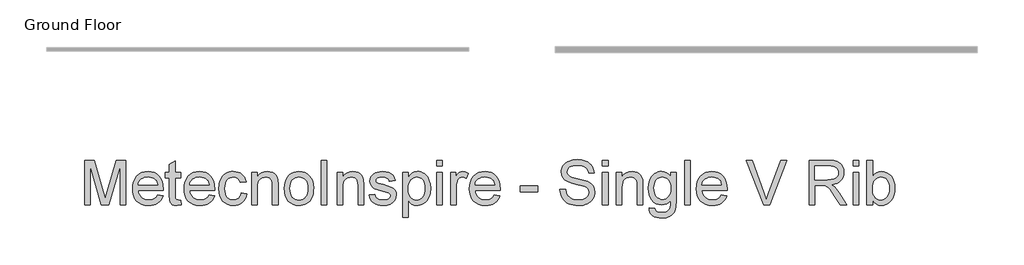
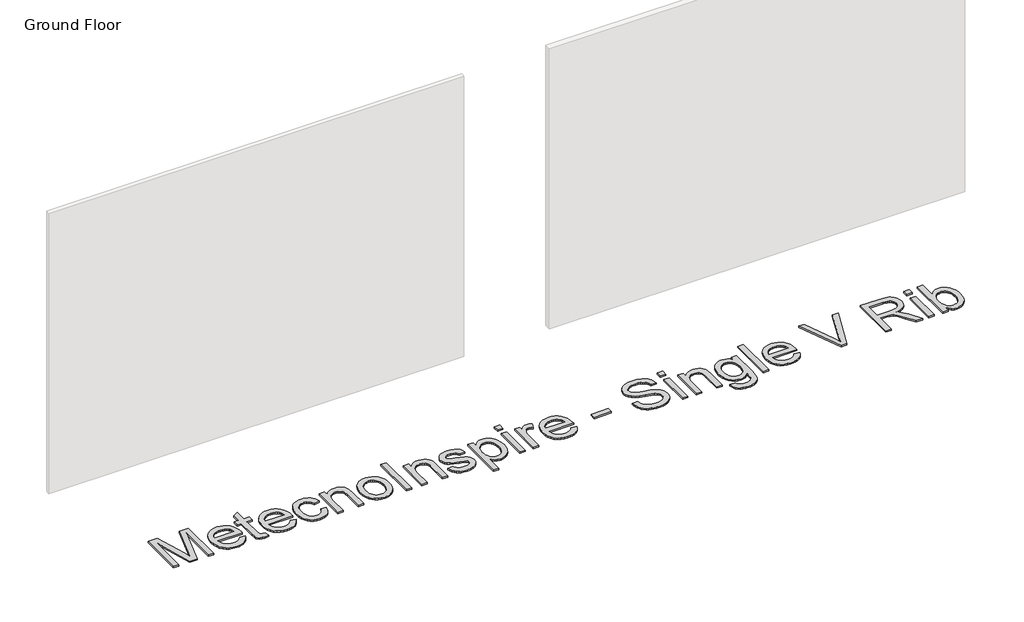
# One storey, part 2 of 5: 1 proxy.
"""IFC4 building model written with IfcOpenShell, lengths in millimetres."""

from ifc_helpers import new_model, si_unit, origin, origin_with_axes, place, context, project, spatial, polyline, outline, extrude, element, save

model = new_model("IFC4")

# Units and contexts
model_context = context("Model", 3, world=origin())
ifc_project = project(units=[si_unit("LENGTHUNIT", "METRE", prefix="MILLI")], contexts=[model_context])

# Site, building, storey
site = spatial("IfcSite", under=ifc_project)
building = spatial("IfcBuilding", under=site)
storey = spatial("IfcBuildingStorey", under=building, Name="Ground Floor", Elevation=0.0)

# Proxy
placement = place(None, origin())
element("IfcBuildingElementProxy", 1, Name="600mm Arial", ObjectType="600mm Arial", at=placement, inside=storey, context=model_context, shape_type="SweptSolid", body=[
    extrude(outline(polyline([(-5461.1753706, -1164.7468486), (-5461.1753706, -573.9776179), (-5334.108063, -573.9776179), (-5213.2426783, -990.3718486), (-5188.8676783, -1077.3430025), (-5162.4734476, -983.1603102), (-5043.6272937, -573.9776179), (-4916.559986, -573.9776179), (-4916.559986, -1164.7468486), (-4990.4061399, -1164.7468486), (-4990.4061399, -647.8237717), (-5138.8196014, -1164.7468486), (-5238.9157553, -1164.7468486), (-5387.3292168, -647.8237717), (-5387.3292168, -1164.7468486), (-5461.1753706, -1164.7468486)])), origin_with_axes(), (0.0, 0.0, 1.0), 20.0),
    extrude(outline(polyline([(-4492.809986, -1035.5160794), (-4420.4061399, -1044.7468486), (-4431.5074019, -1073.7462477), (-4446.4938803, -1099.3021371), (-4465.365575, -1121.4145169), (-4488.122486, -1140.0833871), (-4514.5302384, -1154.9121131), (-4544.3544572, -1165.5040602), (-4577.5951423, -1171.8592285), (-4614.2522937, -1173.9776179), (-4660.0726062, -1170.3222693), (-4700.8989283, -1159.3562236), (-4736.7312601, -1141.0794809), (-4767.5696014, -1115.492041), (-4792.3682793, -1083.3060434), (-4810.0816206, -1045.2336275), (-4820.7096255, -1001.2747934), (-4824.2522937, -951.429541), (-4820.6735678, -899.8940842), (-4809.9373899, -854.4704063), (-4792.0437601, -815.1585073), (-4766.9926783, -781.9583871), (-4736.2354668, -755.5821852), (-4701.2234476, -736.742041), (-4661.9566206, -725.4379544), (-4618.434986, -721.6699256), (-4576.3150942, -725.42894), (-4538.2246495, -736.7059833), (-4504.1636519, -755.5010554), (-4474.1321014, -781.8141563), (-4449.6173779, -814.9421611), (-4432.106861, -854.1819448), (-4421.6005509, -899.5335073), (-4418.0984476, -950.9968486), (-4418.5311399, -970.9006948), (-4750.4061399, -970.9006948), (-4746.1287961, -1000.3688438), (-4737.623688, -1026.1771371), (-4724.8908154, -1048.3255746), (-4707.9301783, -1066.8141563), (-4687.6792769, -1081.3904785), (-4665.075611, -1091.8021371), (-4640.1191807, -1098.0491323), (-4612.809986, -1100.131464), (-4573.5071014, -1096.273291), (-4540.4061399, -1084.6987717), (-4513.5071014, -1064.6867525), (-4492.809986, -1035.5160794)]), holes=[polyline([(-4750.4061399, -897.054541), (-4491.9446014, -897.054541), (-4501.9325822, -858.0401179), (-4510.5233274, -842.6975698), (-4521.5119091, -830.131464), (-4541.6501303, -814.9872333), (-4564.5647937, -804.1699256), (-4590.2558995, -797.679541), (-4618.7234476, -795.5160794), (-4644.6894932, -797.2423414), (-4668.5010918, -802.4211275), (-4690.1582432, -811.0524376), (-4709.6609476, -823.1362717), (-4726.0266327, -838.1137357), (-4738.2727264, -855.4259352), (-4746.3992288, -875.0728703), (-4750.4061399, -897.054541)])]), origin_with_axes(), (0.0, 0.0, 1.0), 20.0),
    extrude(outline(polyline([(-4187.3292168, -1103.1603102), (-4178.0984476, -1166.9103102), (-4233.3388322, -1173.9776179), (-4268.7835437, -1170.912714), (-4295.2138322, -1161.7180025), (-4313.8917168, -1147.5473294), (-4326.0792168, -1129.554541), (-4332.7859476, -1098.6530986), (-4335.0215245, -1045.756464), (-4335.0215245, -804.7468486), (-4390.4061399, -804.7468486), (-4390.4061399, -730.9006948), (-4335.0215245, -730.9006948), (-4335.0215245, -625.4680025), (-4261.1753706, -582.054541), (-4261.1753706, -730.9006948), (-4187.3292168, -730.9006948), (-4187.3292168, -804.7468486), (-4261.1753706, -804.7468486), (-4261.1753706, -1043.5930025), (-4257.2811399, -1081.6699256), (-4244.6609476, -1095.1555025), (-4234.0058995, -1098.8874736), (-4219.4926783, -1100.131464), (-4187.3292168, -1103.1603102)])), origin_with_axes(), (0.0, 0.0, 1.0), 20.0),
    extrude(outline(polyline([(-3809.733063, -1035.5160794), (-3737.3292168, -1044.7468486), (-3748.4304788, -1073.7462477), (-3763.4169572, -1099.3021371), (-3782.2886519, -1121.4145169), (-3805.045563, -1140.0833871), (-3831.4533154, -1154.9121131), (-3861.2775341, -1165.5040602), (-3894.5182192, -1171.8592285), (-3931.1753706, -1173.9776179), (-3976.9956831, -1170.3222693), (-4017.8220053, -1159.3562236), (-4053.654337, -1141.0794809), (-4084.4926783, -1115.492041), (-4109.2913562, -1083.3060434), (-4127.0046976, -1045.2336275), (-4137.6327024, -1001.2747934), (-4141.1753706, -951.429541), (-4137.5966447, -899.8940842), (-4126.8604668, -854.4704063), (-4108.966837, -815.1585073), (-4083.9157553, -781.9583871), (-4053.1585437, -755.5821852), (-4018.1465245, -736.742041), (-3978.8796976, -725.4379544), (-3935.358063, -721.6699256), (-3893.2381711, -725.42894), (-3855.1477264, -736.7059833), (-3821.0867288, -755.5010554), (-3791.0551783, -781.8141563), (-3766.5404548, -814.9421611), (-3749.029938, -854.1819448), (-3738.5236279, -899.5335073), (-3735.0215245, -950.9968486), (-3735.4542168, -970.9006948), (-4067.3292168, -970.9006948), (-4063.051873, -1000.3688438), (-4054.5467649, -1026.1771371), (-4041.8138923, -1048.3255746), (-4024.8532553, -1066.8141563), (-4004.6023538, -1081.3904785), (-3981.998688, -1091.8021371), (-3957.0422577, -1098.0491323), (-3929.733063, -1100.131464), (-3890.4301783, -1096.273291), (-3857.3292168, -1084.6987717), (-3830.4301783, -1064.6867525), (-3809.733063, -1035.5160794)]), holes=[polyline([(-4067.3292168, -897.054541), (-3808.8676783, -897.054541), (-3818.8556591, -858.0401179), (-3827.4464043, -842.6975698), (-3838.434986, -830.131464), (-3858.5732072, -814.9872333), (-3881.4878706, -804.1699256), (-3907.1789764, -797.679541), (-3935.6465245, -795.5160794), (-3961.6125702, -797.2423414), (-3985.4241687, -802.4211275), (-4007.0813202, -811.0524376), (-4026.5840245, -823.1362717), (-4042.9497096, -838.1137357), (-4055.1958033, -855.4259352), (-4063.3223057, -875.0728703), (-4067.3292168, -897.054541)])]), origin_with_axes(), (0.0, 0.0, 1.0), 20.0),
    extrude(outline(polyline([(-3384.2522937, -1007.8237717), (-3310.4061399, -1017.054541), (-3318.4379908, -1051.8997934), (-3330.9950822, -1082.7336275), (-3348.0774139, -1109.5560434), (-3369.684986, -1132.367041), (-3394.9073418, -1150.5716684), (-3422.8340245, -1163.5749736), (-3453.4650341, -1171.3769568), (-3486.8003706, -1173.9776179), (-3528.2171375, -1170.3493126), (-3565.3520533, -1159.4643967), (-3598.2051182, -1141.3228703), (-3626.7763322, -1115.9247333), (-3649.9028346, -1083.7477501), (-3666.4217649, -1045.2696852), (-3676.333123, -1000.4905385), (-3679.6369091, -949.4103102), (-3673.9938803, -883.695166), (-3666.9400942, -854.123351), (-3657.0647937, -826.742041), (-3644.3003706, -802.1011155), (-3628.5792168, -780.7504544), (-3609.9013322, -762.6900578), (-3588.2667168, -747.9199256), (-3564.6534355, -736.4355506), (-3540.0395533, -728.2324256), (-3514.4250702, -723.3105506), (-3487.809986, -721.6699256), (-3455.0470654, -723.9235313), (-3425.4121495, -730.6843486), (-3398.9052384, -741.9523775), (-3375.5263322, -757.7276179), (-3355.6720654, -777.6494929), (-3339.7390726, -801.3574256), (-3327.7273538, -828.851416), (-3319.6369091, -860.131464), (-3393.483063, -869.3622333), (-3406.8784956, -837.1446852), (-3427.7378706, -814.0497333), (-3454.9073418, -800.1494929), (-3487.233063, -795.5160794), (-3512.3247096, -797.7967285), (-3534.9554187, -804.6386756), (-3555.1251904, -816.0419208), (-3572.8340245, -832.006464), (-3587.2525942, -852.9018967), (-3597.5515726, -879.0978102), (-3603.7309596, -910.5942044), (-3605.7907553, -947.3910794), (-3603.7760317, -984.7423414), (-3597.731861, -1016.6038198), (-3587.6582432, -1042.9755145), (-3573.5551783, -1063.8574256), (-3556.1979067, -1079.7273174), (-3536.3616687, -1091.0629544), (-3514.0464644, -1097.8643366), (-3489.2522937, -1100.131464), (-3451.013111, -1094.4704063), (-3434.4761519, -1087.3940842), (-3419.6609476, -1077.4872333), (-3406.9821615, -1064.6416804), (-3396.8544572, -1048.7492525), (-3389.2778346, -1029.8099496), (-3384.2522937, -1007.8237717)])), origin_with_axes(), (0.0, 0.0, 1.0), 20.0),
    extrude(outline(polyline([(-3245.7907553, -1164.7468486), (-3245.7907553, -730.9006948), (-3171.9446014, -730.9006948), (-3171.9446014, -791.4776179), (-3146.2895533, -760.9367525), (-3115.4782553, -739.1218486), (-3079.5107072, -726.0329063), (-3038.3869091, -721.6699256), (-3001.9866687, -725.1855506), (-2968.6513322, -735.7324256), (-2940.8508514, -751.9944448), (-2921.0551783, -772.6555025), (-2907.623688, -797.6615121), (-2898.9157553, -826.9583871), (-2895.0215245, -898.3526179), (-2895.0215245, -1164.7468486), (-2968.8676783, -1164.7468486), (-2968.8676783, -908.304541), (-2970.9950822, -870.1194448), (-2977.3772937, -842.9680025), (-2989.1501303, -823.5148775), (-3007.4494091, -808.4247333), (-3030.904938, -798.7432429), (-3058.1465245, -795.5160794), (-3080.5699019, -797.3279785), (-3101.3977264, -802.7636756), (-3120.629998, -811.8231708), (-3138.2667168, -824.506464), (-3153.0007913, -842.2558631), (-3163.5251303, -866.5136756), (-3169.8397336, -897.2799015), (-3171.9446014, -934.554541), (-3171.9446014, -1164.7468486), (-3245.7907553, -1164.7468486)])), origin_with_axes(), (0.0, 0.0, 1.0), 20.0),
    extrude(outline(polyline([(-2811.9446014, -947.8237717), (-2807.951212, -891.6368727), (-2795.9710437, -843.2204063), (-2776.0040966, -802.5743727), (-2748.0503706, -769.6987717), (-2719.9073418, -748.6861515), (-2688.8436399, -733.6771371), (-2654.8592649, -724.6717285), (-2617.9542168, -721.6699256), (-2577.2135317, -725.3252741), (-2540.3760918, -736.2913198), (-2507.4418971, -754.5680626), (-2478.4109476, -780.1555025), (-2454.7165365, -812.1882549), (-2437.7919572, -849.8009352), (-2427.6372096, -892.9935434), (-2424.2522937, -941.7660794), (-2425.748688, -981.2943246), (-2430.2378706, -1016.3694448), (-2437.7198418, -1046.99144), (-2448.1946014, -1073.1603102), (-2461.5314404, -1095.763976), (-2477.5996495, -1115.6903583), (-2496.3992288, -1132.9394568), (-2517.9301783, -1147.5112717), (-2541.3541567, -1159.0902982), (-2565.8328226, -1167.3610313), (-2591.3661759, -1172.3234712), (-2617.9542168, -1173.9776179), (-2659.2898538, -1170.335791), (-2696.4698418, -1159.4103102), (-2729.4941807, -1141.2011756), (-2758.3628706, -1115.7083871), (-2781.8048779, -1083.3646371), (-2798.5491687, -1044.6026179), (-2808.5957432, -999.4223294), (-2811.9446014, -947.8237717)]), holes=[polyline([(-2738.0984476, -947.679541), (-2735.9620293, -983.498351), (-2729.5527745, -1014.5124736), (-2718.8706831, -1040.7219087), (-2703.9157553, -1062.1266563), (-2685.7246495, -1078.7537597), (-2665.3340245, -1090.6302621), (-2642.7438803, -1097.7561635), (-2617.9542168, -1100.131464), (-2593.2907553, -1097.7426419), (-2570.7907553, -1090.5761756), (-2550.4542168, -1078.632065), (-2532.2811399, -1061.9103102), (-2517.326212, -1040.2937236), (-2506.6441206, -1013.6651179), (-2500.2348658, -982.0244929), (-2498.0984476, -945.3718486), (-2500.2483875, -910.6888559), (-2506.6982072, -880.4860313), (-2517.4479067, -854.7633751), (-2532.497486, -833.5208871), (-2550.7381711, -816.8937837), (-2571.061188, -805.0172813), (-2593.4665365, -797.8913799), (-2617.9542168, -795.5160794), (-2642.7438803, -797.8823655), (-2665.3340245, -804.9812236), (-2685.7246495, -816.8126539), (-2703.9157553, -833.3766563), (-2718.8706831, -854.718303), (-2729.5527745, -880.882666), (-2735.9620293, -911.8697453), (-2738.0984476, -947.679541)])]), origin_with_axes(), (0.0, 0.0, 1.0), 20.0),
    extrude(outline(polyline([(-2322.7138322, -1164.7468486), (-2322.7138322, -573.9776179), (-2248.8676783, -573.9776179), (-2248.8676783, -1164.7468486), (-2322.7138322, -1164.7468486)])), origin_with_axes(), (0.0, 0.0, 1.0), 20.0),
    extrude(outline(polyline([(-2110.4061399, -1164.7468486), (-2110.4061399, -730.9006948), (-2036.559986, -730.9006948), (-2036.559986, -791.4776179), (-2010.904938, -760.9367525), (-1980.0936399, -739.1218486), (-1944.1260918, -726.0329063), (-1903.0022937, -721.6699256), (-1866.6020533, -725.1855506), (-1833.2667168, -735.7324256), (-1805.466236, -751.9944448), (-1785.670563, -772.6555025), (-1772.2390726, -797.6615121), (-1763.5311399, -826.9583871), (-1759.6369091, -898.3526179), (-1759.6369091, -1164.7468486), (-1833.483063, -1164.7468486), (-1833.483063, -908.304541), (-1835.6104668, -870.1194448), (-1841.9926783, -842.9680025), (-1853.7655149, -823.5148775), (-1872.0647937, -808.4247333), (-1895.5203226, -798.7432429), (-1922.7619091, -795.5160794), (-1945.1852865, -797.3279785), (-1966.013111, -802.7636756), (-1985.2453827, -811.8231708), (-2002.8821014, -824.506464), (-2017.6161759, -842.2558631), (-2028.1405149, -866.5136756), (-2034.4551182, -897.2799015), (-2036.559986, -934.554541), (-2036.559986, -1164.7468486), (-2110.4061399, -1164.7468486)])), origin_with_axes(), (0.0, 0.0, 1.0), 20.0),
    extrude(outline(polyline([(-1685.7907553, -1035.5160794), (-1611.9446014, -1026.2853102), (-1607.482462, -1043.1242525), (-1600.2979668, -1057.8718486), (-1590.3911158, -1070.5280986), (-1577.7619091, -1081.0930025), (-1562.3742889, -1089.4223294), (-1544.1921976, -1095.3718486), (-1499.4446014, -1100.131464), (-1455.2378706, -1095.7684833), (-1438.0563803, -1090.3147573), (-1424.1561399, -1082.679541), (-1405.7667168, -1063.7131948), (-1399.6369091, -1041.7180025), (-1401.1783755, -1031.7480506), (-1405.8027745, -1022.8958871), (-1424.3003706, -1008.5449256), (-1451.9566206, -999.1699256), (-1500.309986, -987.4872333), (-1567.701813, -967.9980506), (-1611.5119091, -951.3574256), (-1639.654938, -933.2023775), (-1660.045563, -909.1699256), (-1672.4313803, -880.7925217), (-1676.559986, -849.6026179), (-1673.2426783, -820.990839), (-1663.2907553, -794.5785794), (-1647.6056591, -771.4115121), (-1627.0888322, -752.5353102), (-1606.6982072, -740.6543006), (-1580.1417168, -730.6843486), (-1549.4385918, -723.9235313), (-1516.608063, -721.6699256), (-1468.5431591, -725.2937236), (-1426.7522937, -736.1651179), (-1393.1465245, -753.2204063), (-1369.6369091, -775.3958871), (-1354.059986, -804.3321852), (-1344.2522937, -841.6699256), (-1418.0984476, -850.9006948), (-1427.419361, -827.6615121), (-1445.8628706, -810.1555025), (-1473.6092649, -799.1759352), (-1510.8388322, -795.5160794), (-1553.2426783, -799.0136756), (-1581.5119091, -809.506464), (-1597.4133514, -824.6506948), (-1602.7138322, -842.1026179), (-1600.514313, -853.460791), (-1593.9157553, -863.5930025), (-1582.6296976, -872.6434833), (-1566.3676783, -879.8910794), (-1502.7619091, -895.6122333), (-1394.372486, -930.3718486), (-1365.7426783, -946.9944448), (-1344.0359476, -969.7468486), (-1330.3520533, -998.7011756), (-1325.7907553, -1033.929541), (-1331.1453226, -1070.3478102), (-1347.2090245, -1104.6026179), (-1373.3688803, -1134.007666), (-1409.0119091, -1155.8766563), (-1452.0647937, -1169.4523775), (-1500.4542168, -1173.9776179), (-1540.1988081, -1171.7961275), (-1574.9133514, -1165.2516563), (-1604.5978466, -1154.3442044), (-1629.2522937, -1139.0737717), (-1649.3905149, -1119.5124736), (-1665.5263322, -1095.7324256), (-1677.6597456, -1067.7336275), (-1685.7907553, -1035.5160794)])), origin_with_axes(), (0.0, 0.0, 1.0), 20.0),
    extrude(outline(polyline([(-1242.7138322, -1330.9006948), (-1242.7138322, -730.9006948), (-1168.8676783, -730.9006948), (-1168.8676783, -803.304541), (-1144.7811399, -767.5893967), (-1117.809986, -742.0785794), (-1086.3676783, -726.772089), (-1048.8676783, -721.6699256), (-1023.1134716, -723.4547813), (-998.9277745, -728.8093486), (-976.310587, -737.7336275), (-955.2619091, -750.2276179), (-936.2414764, -765.9668006), (-919.7090245, -784.6266563), (-905.6645533, -806.2071852), (-894.108063, -830.7083871), (-878.639313, -885.1194448), (-873.483063, -944.506464), (-879.3063803, -1007.6615121), (-886.5855269, -1036.7375337), (-896.7763322, -1064.1458871), (-909.7390726, -1089.1699256), (-925.3340245, -1111.0930025), (-943.561188, -1129.9151179), (-964.420563, -1145.6362717), (-986.8890125, -1158.0356107), (-1009.9433995, -1166.8922813), (-1033.583724, -1172.2062837), (-1057.809986, -1173.9776179), (-1091.7583033, -1169.2360313), (-1122.0647937, -1155.0112717), (-1148.0083033, -1133.538916), (-1168.8676783, -1107.054541), (-1168.8676783, -1330.9006948), (-1242.7138322, -1330.9006948)]), holes=[polyline([(-1168.8676783, -951.2853102), (-1166.8709836, -986.8742525), (-1160.8808995, -1017.4872333), (-1150.8974259, -1043.1242525), (-1136.920563, -1063.7853102), (-1120.0951423, -1079.6867525), (-1101.5659956, -1091.0449256), (-1081.333123, -1097.8598294), (-1059.3965245, -1100.131464), (-1037.1444211, -1097.7786996), (-1016.5419572, -1090.7204063), (-997.5891327, -1078.9565842), (-980.2859476, -1062.4872333), (-965.8673779, -1041.0779785), (-955.5683995, -1014.4944448), (-949.3890125, -982.7366323), (-947.3292168, -945.804541), (-949.3394331, -910.522089), (-955.3700822, -879.9631948), (-965.4211639, -854.1278583), (-979.4926783, -833.0160794), (-996.3586639, -816.6098294), (-1014.7931591, -804.8910794), (-1034.7961639, -797.8598294), (-1056.3676783, -795.5160794), (-1077.8715846, -798.0085674), (-1098.1044572, -805.4860313), (-1117.0662961, -817.9484712), (-1134.7571014, -835.3958871), (-1149.6804788, -857.5939039), (-1160.3400341, -884.3081467), (-1166.7357673, -915.5386155), (-1168.8676783, -951.2853102)])]), origin_with_axes(), (0.0, 0.0, 1.0), 20.0),
    extrude(outline(polyline([(-790.4061399, -1164.7468486), (-790.4061399, -730.9006948), (-716.559986, -730.9006948), (-716.559986, -1164.7468486), (-790.4061399, -1164.7468486)])), origin_with_axes(), (0.0, 0.0, 1.0), 20.0),
    extrude(outline(polyline([(-790.4061399, -647.8237717), (-790.4061399, -573.9776179), (-716.559986, -573.9776179), (-716.559986, -647.8237717), (-790.4061399, -647.8237717)])), origin_with_axes(), (0.0, 0.0, 1.0), 20.0),
    extrude(outline(polyline([(-605.7907553, -1164.7468486), (-605.7907553, -730.9006948), (-541.1753706, -730.9006948), (-541.1753706, -795.0833871), (-517.3051783, -757.8718486), (-495.309986, -735.9487717), (-473.2426783, -725.2396371), (-449.1561399, -721.6699256), (-412.3772937, -727.367041), (-375.0215245, -744.4583871), (-399.684986, -810.6603102), (-425.6465245, -799.3021371), (-451.608063, -795.5160794), (-473.6573418, -799.1579063), (-493.3628706, -810.0833871), (-509.2823418, -827.4631948), (-519.9734476, -850.4680025), (-528.951813, -891.7180025), (-531.9446014, -936.7180025), (-531.9446014, -1164.7468486), (-605.7907553, -1164.7468486)])), origin_with_axes(), (0.0, 0.0, 1.0), 20.0),
    extrude(outline(polyline([(-25.1176783, -1035.5160794), (47.2861678, -1044.7468486), (36.1849058, -1073.7462477), (21.1984274, -1099.3021371), (2.3267327, -1121.4145169), (-20.4301783, -1140.0833871), (-46.8379307, -1154.9121131), (-76.6621495, -1165.5040602), (-109.9028346, -1171.8592285), (-146.559986, -1173.9776179), (-192.3802985, -1170.3222693), (-233.2066206, -1159.3562236), (-269.0389524, -1141.0794809), (-299.8772937, -1115.492041), (-324.6759716, -1083.3060434), (-342.389313, -1045.2336275), (-353.0173178, -1001.2747934), (-356.559986, -951.429541), (-352.9812601, -899.8940842), (-342.2450822, -854.4704063), (-324.3514524, -815.1585073), (-299.3003706, -781.9583871), (-268.5431591, -755.5821852), (-233.5311399, -736.742041), (-194.264313, -725.4379544), (-150.7426783, -721.6699256), (-108.6227865, -725.42894), (-70.5323418, -736.7059833), (-36.4713442, -755.5010554), (-6.4397937, -781.8141563), (18.0749298, -814.9421611), (35.5854467, -854.1819448), (46.0917568, -899.5335073), (49.5938601, -950.9968486), (49.1611678, -970.9006948), (-282.7138322, -970.9006948), (-278.4364884, -1000.3688438), (-269.9313803, -1026.1771371), (-257.1985077, -1048.3255746), (-240.2378706, -1066.8141563), (-219.9869692, -1081.3904785), (-197.3833033, -1091.8021371), (-172.426873, -1098.0491323), (-145.1176783, -1100.131464), (-105.8147937, -1096.273291), (-72.7138322, -1084.6987717), (-45.8147937, -1064.6867525), (-25.1176783, -1035.5160794)]), holes=[polyline([(-282.7138322, -897.054541), (-24.2522937, -897.054541), (-34.2402745, -858.0401179), (-42.8310197, -842.6975698), (-53.8196014, -830.131464), (-73.9578226, -814.9872333), (-96.872486, -804.1699256), (-122.5635918, -797.679541), (-151.0311399, -795.5160794), (-176.9971855, -797.2423414), (-200.8087841, -802.4211275), (-222.4659355, -811.0524376), (-241.9686399, -823.1362717), (-258.334325, -838.1137357), (-270.5804187, -855.4259352), (-278.7069211, -875.0728703), (-282.7138322, -897.054541)])]), origin_with_axes(), (0.0, 0.0, 1.0), 20.0),
    extrude(outline(polyline([(317.2861678, -989.3622333), (317.2861678, -915.5160794), (548.0553986, -915.5160794), (548.0553986, -989.3622333), (317.2861678, -989.3622333)])), origin_with_axes(), (0.0, 0.0, 1.0), 20.0),
    extrude(outline(polyline([(843.440014, -961.6699256), (917.2861678, -961.6699256), (925.7597255, -1002.6494929), (941.0842447, -1035.5881948), (964.9904947, -1061.7300217), (999.2092447, -1082.318964), (1041.0361678, -1095.678339), (1087.766937, -1100.131464), (1128.908764, -1096.7600698), (1164.9303986, -1086.6458871), (1194.1191005, -1070.6362717), (1214.7621294, -1049.5785794), (1227.0397736, -1025.4018967), (1231.1323217, -1000.0353102), (1228.0674178, -975.3177621), (1218.8727063, -953.9535794), (1200.1948217, -935.726416), (1168.6803986, -920.4199256), (1061.1563601, -892.2228102), (990.5734274, -873.5629544), (945.4111678, -855.804541), (908.6503505, -830.960791), (882.5986678, -800.8526179), (867.0758313, -766.1290602), (861.9015524, -727.4391563), (863.5016125, -705.4484712), (868.3017928, -684.1879544), (876.3020933, -663.6576059), (887.502514, -643.8574256), (901.7768529, -625.5942044), (918.9989082, -609.6747333), (939.1686798, -596.0990121), (962.2861678, -584.867041), (1014.2453024, -569.7768967), (1071.7573217, -564.7468486), (1134.065014, -570.0112717), (1188.5842447, -585.804541), (1212.4364082, -597.5683631), (1233.3678986, -611.8021371), (1251.3787159, -628.5058631), (1266.4688601, -647.679541), (1278.5211438, -668.7642765), (1287.4183794, -691.2011756), (1293.1605669, -714.9902381), (1295.7477063, -740.131464), (1221.9015524, -740.131464), (1216.9616486, -716.5677621), (1208.3438601, -696.068964), (1196.048187, -678.6350698), (1180.0746294, -664.2660794), (1160.1257111, -653.0341083), (1135.9039563, -645.0112717), (1107.4093649, -640.1975698), (1074.641937, -638.5930025), (1040.8288361, -640.179541), (1011.9376101, -644.9391563), (987.9682592, -652.8718486), (968.9207832, -663.9776179), (954.407562, -677.3279785), (944.0409755, -691.9944448), (937.8210236, -707.9770169), (935.7477063, -725.2756948), (941.6251101, -753.6530986), (959.2573217, -776.4776179), (975.4472255, -786.6278583), (1000.940014, -796.8862717), (1079.8342447, -817.7276179), (1161.252514, -837.523291), (1210.5073217, -854.7949256), (1252.6046774, -881.585791), (1268.8802183, -897.3339881), (1281.9736678, -914.6506948), (1292.0382712, -933.4457669), (1299.2272736, -953.6290602), (1304.9784755, -998.1603102), (1303.3243289, -1021.2597693), (1298.361889, -1043.6831467), (1290.0911558, -1065.4304424), (1278.5121294, -1086.5016563), (1263.8276342, -1106.0809833), (1246.2404947, -1123.3526179), (1225.7507111, -1138.3165602), (1202.3582832, -1150.9728102), (1176.7438, -1161.0374135), (1149.5878505, -1168.226416), (1090.6515524, -1173.9776179), (1052.8766125, -1172.4271371), (1018.3017928, -1167.7756948), (986.9270933, -1160.023291), (958.752514, -1149.1699256), (933.6067808, -1135.1975698), (911.3186197, -1118.0881948), (891.8880308, -1097.8418006), (875.315014, -1074.4583871), (861.9646534, -1048.695166), (852.2020332, -1021.3093486), (846.0271534, -992.3009352), (843.440014, -961.6699256)])), origin_with_axes(), (0.0, 0.0, 1.0), 20.0),
    extrude(outline(polyline([(1406.516937, -647.8237717), (1406.516937, -573.9776179), (1480.3630909, -573.9776179), (1480.3630909, -647.8237717), (1406.516937, -647.8237717)])), origin_with_axes(), (0.0, 0.0, 1.0), 20.0),
    extrude(outline(polyline([(1406.516937, -1164.7468486), (1406.516937, -730.9006948), (1480.3630909, -730.9006948), (1480.3630909, -1164.7468486), (1406.516937, -1164.7468486)])), origin_with_axes(), (0.0, 0.0, 1.0), 20.0),
    extrude(outline(polyline([(1591.1323217, -1164.7468486), (1591.1323217, -730.9006948), (1664.9784755, -730.9006948), (1664.9784755, -791.4776179), (1690.6335236, -760.9367525), (1721.4448217, -739.1218486), (1757.4123697, -726.0329063), (1798.5361678, -721.6699256), (1834.9364082, -725.1855506), (1868.2717447, -735.7324256), (1896.0722255, -751.9944448), (1915.8678986, -772.6555025), (1929.299389, -797.6615121), (1938.0073217, -826.9583871), (1941.9015524, -898.3526179), (1941.9015524, -1164.7468486), (1868.0553986, -1164.7468486), (1868.0553986, -908.304541), (1865.9279947, -870.1194448), (1859.5457832, -842.9680025), (1847.7729467, -823.5148775), (1829.4736678, -808.4247333), (1806.018139, -798.7432429), (1778.7765524, -795.5160794), (1756.353175, -797.3279785), (1735.5253505, -802.7636756), (1716.2930789, -811.8231708), (1698.6563601, -824.506464), (1683.9222856, -842.2558631), (1673.3979467, -866.5136756), (1667.0833433, -897.2799015), (1664.9784755, -934.554541), (1664.9784755, -1164.7468486), (1591.1323217, -1164.7468486)])), origin_with_axes(), (0.0, 0.0, 1.0), 20.0),
    extrude(outline(polyline([(2024.9784755, -1201.6699256), (2098.8246294, -1210.9006948), (2106.9736678, -1233.9776179), (2122.766937, -1249.8430025), (2153.8126101, -1262.1747333), (2194.4496294, -1266.2853102), (2237.7909755, -1261.6338679), (2255.2969851, -1255.819565), (2270.0265524, -1247.679541), (2292.3823217, -1225.3237717), (2306.0842447, -1195.4680025), (2310.0866486, -1163.7011756), (2311.1323217, -1109.3622333), (2286.5590044, -1133.5930025), (2259.1371294, -1150.9006948), (2228.8666967, -1161.2853102), (2195.7477063, -1164.7468486), (2155.259425, -1160.7174015), (2119.611889, -1148.6290602), (2088.8050981, -1128.4818246), (2062.8390524, -1100.2756948), (2042.2365885, -1066.4355506), (2027.5205428, -1029.3862717), (2018.6909154, -989.1278583), (2015.7477063, -945.6603102), (2021.0301582, -886.038916), (2036.877514, -831.2131948), (2048.6233072, -806.4911395), (2062.7308794, -784.7528583), (2079.2002303, -765.998351), (2098.0313601, -750.2276179), (2118.9222856, -737.7336275), (2141.5710236, -728.8093486), (2165.9775741, -723.4547813), (2192.141937, -721.6699256), (2226.6761919, -725.7083871), (2258.0193409, -737.8237717), (2286.1713842, -758.0160794), (2311.1323217, -786.2853102), (2311.1323217, -730.9006948), (2384.9784755, -730.9006948), (2384.9784755, -1105.4680025), (2379.9303986, -1191.9523775), (2373.6203024, -1224.1203462), (2364.7861678, -1248.9055025), (2353.2161558, -1268.8949857), (2338.6984274, -1286.6759352), (2321.2329827, -1302.248351), (2300.8198217, -1315.6122333), (2277.666276, -1326.3393967), (2251.9796774, -1334.0016563), (2223.760026, -1338.5990121), (2193.0073217, -1340.131464), (2156.8279346, -1337.9725097), (2124.299389, -1331.4956467), (2095.4216846, -1320.7008751), (2070.1948217, -1305.5881948), (2049.8177183, -1286.139577), (2035.4892928, -1262.3369929), (2027.2095452, -1234.1804424), (2024.9784755, -1201.6699256)]), holes=[polyline([(2089.5938601, -940.6122333), (2091.5635116, -977.1251539), (2097.4724659, -1008.3466083), (2107.3207231, -1034.2765962), (2121.1082832, -1054.9151179), (2137.8706029, -1070.6588078), (2156.643139, -1081.9043006), (2177.4258914, -1088.6515962), (2200.2188601, -1090.9006948), (2222.7864683, -1088.6651179), (2243.470062, -1081.9583871), (2262.2696414, -1070.7805025), (2279.1852063, -1055.131464), (2293.1620693, -1034.6957669), (2303.1455428, -1009.1579063), (2309.135627, -978.5178823), (2311.1323217, -942.7756948), (2309.0770332, -908.5253943), (2302.9111678, -878.7552621), (2292.6347255, -853.4652982), (2278.2477063, -832.6555025), (2260.9670572, -816.4070049), (2242.0097255, -804.8009352), (2221.3757111, -797.8372934), (2199.065014, -795.5160794), (2177.1284154, -797.8012357), (2156.8955428, -804.6567044), (2138.3663962, -816.0824857), (2121.5409755, -832.0785794), (2107.5641125, -852.5728703), (2097.580639, -877.4932429), (2091.5905548, -906.8396972), (2089.5938601, -940.6122333)])]), origin_with_axes(), (0.0, 0.0, 1.0), 20.0),
    extrude(outline(polyline([(2495.7477063, -1164.7468486), (2495.7477063, -573.9776179), (2569.5938601, -573.9776179), (2569.5938601, -1164.7468486), (2495.7477063, -1164.7468486)])), origin_with_axes(), (0.0, 0.0, 1.0), 20.0),
    extrude(outline(polyline([(2984.1130909, -1035.5160794), (3056.516937, -1044.7468486), (3045.415675, -1073.7462477), (3030.4291967, -1099.3021371), (3011.557502, -1121.4145169), (2988.8005909, -1140.0833871), (2962.3928385, -1154.9121131), (2932.5686197, -1165.5040602), (2899.3279346, -1171.8592285), (2862.6707832, -1173.9776179), (2816.8504707, -1170.3222693), (2776.0241486, -1159.3562236), (2740.1918169, -1141.0794809), (2709.3534755, -1115.492041), (2684.5547976, -1083.3060434), (2666.8414563, -1045.2336275), (2656.2134515, -1001.2747934), (2652.6707832, -951.429541), (2656.2495092, -899.8940842), (2666.985687, -854.4704063), (2684.8793169, -815.1585073), (2709.9303986, -781.9583871), (2740.6876101, -755.5821852), (2775.6996294, -736.742041), (2814.9664563, -725.4379544), (2858.4880909, -721.6699256), (2900.6079827, -725.42894), (2938.6984274, -736.7059833), (2972.759425, -755.5010554), (3002.7909755, -781.8141563), (3027.3056991, -814.9421611), (3044.8162159, -854.1819448), (3055.322526, -899.5335073), (3058.8246294, -950.9968486), (3058.391937, -970.9006948), (2726.516937, -970.9006948), (2730.7942808, -1000.3688438), (2739.299389, -1026.1771371), (2752.0322616, -1048.3255746), (2768.9928986, -1066.8141563), (2789.2438, -1081.3904785), (2811.8474659, -1091.8021371), (2836.8038962, -1098.0491323), (2864.1130909, -1100.131464), (2903.4159755, -1096.273291), (2936.516937, -1084.6987717), (2963.4159755, -1064.6867525), (2984.1130909, -1035.5160794)]), holes=[polyline([(2726.516937, -897.054541), (2984.9784755, -897.054541), (2974.9904947, -858.0401179), (2966.3997495, -842.6975698), (2955.4111678, -830.131464), (2935.2729467, -814.9872333), (2912.3582832, -804.1699256), (2886.6671774, -797.679541), (2858.1996294, -795.5160794), (2832.2335837, -797.2423414), (2808.4219851, -802.4211275), (2786.7648337, -811.0524376), (2767.2621294, -823.1362717), (2750.8964443, -838.1137357), (2738.6503505, -855.4259352), (2730.5238481, -875.0728703), (2726.516937, -897.054541)])]), origin_with_axes(), (0.0, 0.0, 1.0), 20.0),
    extrude(outline(polyline([(3547.190014, -1164.7468486), (3312.0938601, -573.9776179), (3391.1323217, -573.9776179), (3548.4880909, -999.6026179), (3580.3630909, -1095.5160794), (3611.8053986, -999.6026179), (3769.5938601, -573.9776179), (3848.6323217, -573.9776179), (3623.4880909, -1164.7468486), (3547.190014, -1164.7468486)])), origin_with_axes(), (0.0, 0.0, 1.0), 20.0),
    extrude(outline(polyline([(4148.0553986, -1164.7468486), (4148.0553986, -573.9776179), (4402.6227063, -573.9776179), (4471.0421774, -577.9619929), (4520.8198217, -589.9151179), (4540.0295572, -599.4163198), (4557.2020332, -611.9824256), (4572.3372495, -627.6134352), (4585.4352063, -646.3093486), (4596.0046173, -667.0650578), (4603.5541967, -688.8754544), (4609.5938601, -735.6603102), (4607.0923577, -766.0028583), (4599.5878505, -793.8574256), (4587.0803385, -819.2240121), (4569.5698217, -842.1026179), (4546.8309395, -861.7630746), (4518.6383313, -877.475214), (4484.9919971, -889.2390361), (4445.891937, -897.054541), (4470.2308794, -912.9559833), (4487.8630909, -928.6410794), (4547.7188601, -1004.6506948), (4646.2284755, -1164.7468486), (4560.4111678, -1164.7468486), (4483.5361678, -1042.2949256), (4428.0073217, -961.2372333), (4407.3642928, -937.601416), (4388.9928986, -922.943964), (4353.8727063, -908.881464), (4311.0361678, -906.2853102), (4221.9015524, -906.2853102), (4221.9015524, -1164.7468486), (4148.0553986, -1164.7468486)]), holes=[polyline([(4221.9015524, -832.4391563), (4387.190014, -832.4391563), (4434.6599659, -829.8249736), (4471.4928986, -821.9824256), (4499.221264, -808.3886756), (4519.377514, -788.5208871), (4531.6551582, -764.4884352), (4535.7477063, -738.4006948), (4533.7960837, -719.5154785), (4527.9412159, -702.3790602), (4518.1831029, -686.99144), (4504.5217447, -673.3526179), (4486.6416366, -662.1837477), (4464.2272736, -654.2059833), (4437.2786558, -649.4193246), (4405.7957832, -647.8237717), (4221.9015524, -647.8237717), (4221.9015524, -832.4391563)])]), origin_with_axes(), (0.0, 0.0, 1.0), 20.0),
    extrude(outline(polyline([(4729.5938601, -1164.7468486), (4729.5938601, -730.9006948), (4803.440014, -730.9006948), (4803.440014, -1164.7468486), (4729.5938601, -1164.7468486)])), origin_with_axes(), (0.0, 0.0, 1.0), 20.0),
    extrude(outline(polyline([(4729.5938601, -647.8237717), (4729.5938601, -573.9776179), (4803.440014, -573.9776179), (4803.440014, -647.8237717), (4729.5938601, -647.8237717)])), origin_with_axes(), (0.0, 0.0, 1.0), 20.0),
    extrude(outline(polyline([(4988.0553986, -1164.7468486), (4914.2092447, -1164.7468486), (4914.2092447, -573.9776179), (4988.0553986, -573.9776179), (4988.0553986, -793.0641563), (5012.3402544, -761.8291804), (5039.7621294, -739.5184833), (5070.3210236, -726.132065), (5104.016937, -721.6699256), (5142.0578024, -725.6903583), (5178.0073217, -737.7516563), (5209.8102063, -757.0966083), (5235.4111678, -782.9680025), (5255.4772736, -815.1134352), (5270.6755909, -853.2805025), (5280.2489082, -895.882666), (5283.440014, -941.3333871), (5280.1362279, -993.7793006), (5270.2248697, -1039.9151179), (5253.7059395, -1079.740839), (5230.579437, -1113.256464), (5202.8195212, -1139.8219688), (5172.4003505, -1158.7973294), (5139.321925, -1170.1825458), (5103.5842447, -1173.9776179), (5068.7795572, -1169.0827861), (5037.923187, -1154.398291), (5011.0151342, -1129.9241323), (4988.0553986, -1095.6603102), (4988.0553986, -1164.7468486)]), holes=[polyline([(4988.0553986, -944.7949256), (4993.1034755, -1006.381464), (4999.4135717, -1029.710791), (5008.2477063, -1048.0641563), (5026.1413361, -1070.8436035), (5046.9376101, -1087.1146371), (5070.6365284, -1096.8772573), (5097.2380909, -1100.131464), (5119.3234274, -1097.7336275), (5139.8582832, -1090.5401179), (5158.8426582, -1078.5509352), (5176.2765524, -1061.7660794), (5190.8528745, -1040.2306227), (5201.2645332, -1013.9896371), (5207.5115284, -983.0431227), (5209.5938601, -947.3910794), (5207.5971654, -911.0629544), (5201.6070813, -879.818964), (5191.6236077, -853.6591083), (5177.6467447, -832.5833871), (5160.8393529, -816.36644), (5142.3642928, -804.7829063), (5122.2215645, -797.8327861), (5100.4111678, -795.5160794), (5078.3258313, -797.913916), (5057.7909755, -805.1074256), (5038.8066005, -817.0966083), (5021.3727063, -833.881464), (5006.7963842, -855.2005746), (4996.3847255, -880.7925217), (4990.1377303, -910.6573054), (4988.0553986, -944.7949256)])]), origin_with_axes(), (0.0, 0.0, 1.0), 20.0),
])

save(model, "model.ifc")
